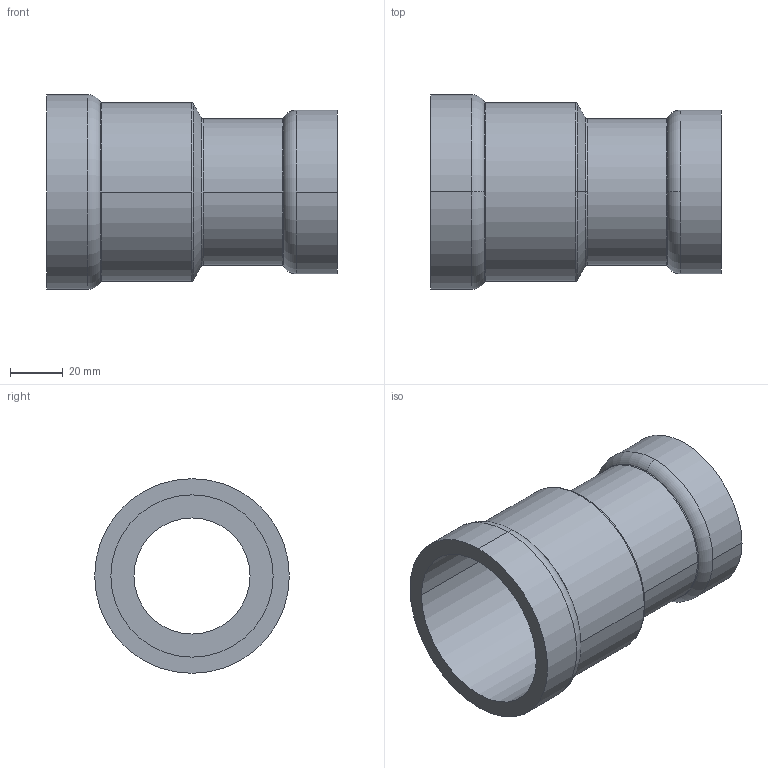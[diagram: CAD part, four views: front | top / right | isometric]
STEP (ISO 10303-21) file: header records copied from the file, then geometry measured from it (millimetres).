
FILE_DESCRIPTION(('Creo Elements/Direct Modeling STEP Export'),'2;1');
FILE_NAME('C9439_2_1-1-2.stp','2020-07-20T10:22:24',(''),(''),'PTC Creo Elements/Direct Modeling STEP processor for AP214 (Solid Model)','PTC Creo Elements/Direct Modeling 19.0C 15-Aug-2015 (C) Parametric Technology GmbH','');
FILE_SCHEMA(('AUTOMOTIVE_DESIGN { 1 0 10303 214 1 1 1 1 }'));
Length unit declared in the file: millimetre
Products named in the file (2): C9439_2_1-1-2
Assembly tree (1 placements, depth 2):
  C9439_2_1-1-2
    C9439_2_1-1-2
Bounding box: 110.1 x 73.8 x 73.8 mm (x, y, z)
Volume: 94139.4 mm3; surface area: 46566.6 mm2
Topology: 1 solids, 1 shells, 32 faces, 75 edges, 47 vertices
Faces by surface type: cylinder 14, torus 12, plane 4, cone 2
Entity records: 850 total; most frequent: ORIENTED_EDGE 150, DIRECTION 144, CARTESIAN_POINT 127, EDGE_CURVE 75, AXIS2_PLACEMENT_3D 64, VERTEX_POINT 47, EDGE_LOOP 36, FACE_OUTER_BOUND 32
